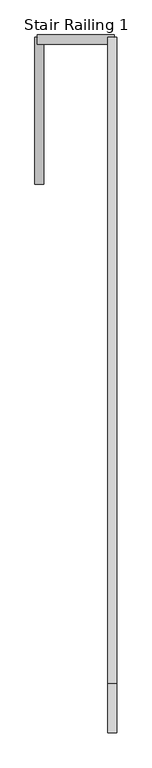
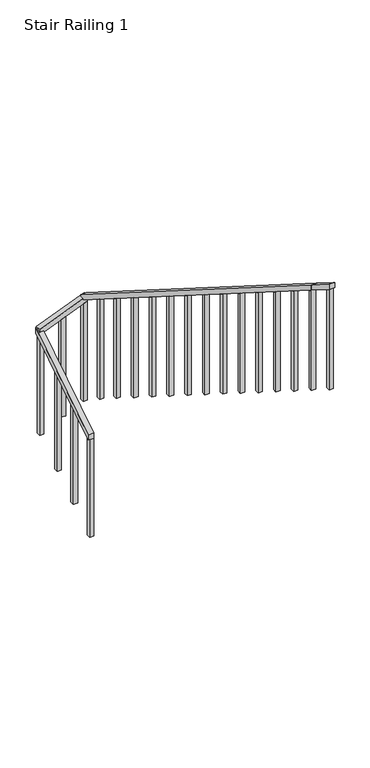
"""IFC4 building model written with IfcOpenShell, lengths in millimetres: railing geometry, Stair Railing 1."""

import ifcopenshell
import ifcopenshell.guid

model = None  # the IFC model being written
_history = None  # IfcOwnerHistory: only IFC2X3 demands one
_inside = {}  # id of a spatial element -> (the spatial element, [elements in it])
_under = {}  # id of a project, library or spatial element -> (it, [spatial elements below it])
_declared = {}  # id of a project -> (the project, [libraries it declares])
_typed = {}  # id of a type object -> (the type object, [elements of that type])
_made_of = {}  # id of a material, layer set ... -> (it, [elements and type objects made of it])


def new_model(schema):
    """Start an empty IFC model of exactly this schema.

    Asked for "IFC4X3", IfcOpenShell would pick the latest addendum, in which some entities
    have other attributes; the version numbers below select the first issue.
    IFC2X3 requires an IfcOwnerHistory on every rooted entity: one is made here for all.
    """
    global model, _history
    if schema == "IFC4X3":
        model = ifcopenshell.file(schema_version=(4, 3, 0, 0))
    else:
        model = ifcopenshell.file(schema=schema)
    _inside.clear()
    _under.clear()
    _declared.clear()
    _typed.clear()
    _made_of.clear()
    _history = None
    if model.schema == "IFC2X3":
        org = make("IfcOrganization", Name="unknown")
        user = make(
            "IfcPersonAndOrganization",
            ThePerson=make("IfcPerson", FamilyName="unknown"),
            TheOrganization=org,
        )
        app = make(
            "IfcApplication",
            ApplicationDeveloper=org,
            Version="unknown",
            ApplicationFullName="unknown",
            ApplicationIdentifier="unknown",
        )
        _history = make(
            "IfcOwnerHistory",
            OwningUser=user,
            OwningApplication=app,
            ChangeAction="ADDED",
            CreationDate=0,
        )
    return model


def make(cls, **values):
    """One entity of the class cls with the attributes given. An attribute that is None is left unset."""
    return model.create_entity(
        cls, **{name: value for name, value in values.items() if value is not None}
    )


def rooted(cls, **values):
    """An entity with a GlobalId (a new one), such as an element, a storey or a relation."""
    return make(cls, GlobalId=ifcopenshell.guid.new(), OwnerHistory=_history, **values)


def si_unit(unit_type, name, prefix=None):
    """IfcSIUnit, for example si_unit("LENGTHUNIT", "METRE", prefix="MILLI")."""
    return make("IfcSIUnit", UnitType=unit_type, Prefix=prefix, Name=name)


def assignment(units):
    """IfcUnitAssignment: the units of a project."""
    return None if units is None else make("IfcUnitAssignment", Units=units)


def point(xyz):
    """IfcCartesianPoint."""
    return None if xyz is None else make("IfcCartesianPoint", Coordinates=xyz)


def direction(xyz):
    """IfcDirection."""
    return None if xyz is None else make("IfcDirection", DirectionRatios=xyz)


def frame(location, z_axis=None, x_axis=None):
    """IfcAxis2Placement3D, a coordinate frame: its origin and axes. An axis left out is left unset."""
    return make(
        "IfcAxis2Placement3D",
        Location=point(location),
        Axis=direction(z_axis),
        RefDirection=direction(x_axis),
    )


def origin():
    """The frame at (0, 0, 0) with its axes left unset."""
    return frame((0.0, 0.0, 0.0))


def place(relative_to, where):
    """IfcLocalPlacement: puts the frame where relative to a parent placement (None: the world)."""
    return make(
        "IfcLocalPlacement", PlacementRelTo=relative_to, RelativePlacement=where
    )


def context(
    kind, dimensions, precision=None, world=None, true_north=None, identifier=None
):
    """IfcGeometricRepresentationContext, for example the 3D "Model" context."""
    return make(
        "IfcGeometricRepresentationContext",
        ContextIdentifier=identifier,
        ContextType=kind,
        CoordinateSpaceDimension=dimensions,
        Precision=precision,
        WorldCoordinateSystem=world,
        TrueNorth=true_north,
    )


def project(units=None, contexts=None):
    """IfcProject with its units and contexts."""
    return rooted(
        "IfcProject",
        Name="project",
        RepresentationContexts=contexts,
        UnitsInContext=assignment(units),
    )


def spatial(cls, under=None, at=None, **own):
    """A site, building, storey or space (cls), placed at a placement, below another one or the project."""
    s = rooted(cls, ObjectPlacement=at, **own)
    if under is not None:
        _under.setdefault(under.id(), (under, []))[1].append(s)
    return s


def polyline(points):
    """IfcPolyline through the points."""
    return make("IfcPolyline", Points=[point(p) for p in points])


def outline(outer, holes=None, kind="AREA"):
    """IfcArbitraryClosedProfileDef: a profile drawn as a closed curve; with holes, ...WithVoids."""
    if holes is None:
        return make("IfcArbitraryClosedProfileDef", ProfileType=kind, OuterCurve=outer)
    return make(
        "IfcArbitraryProfileDefWithVoids",
        ProfileType=kind,
        OuterCurve=outer,
        InnerCurves=holes,
    )


def extrude(swept, where, along, depth):
    """IfcExtrudedAreaSolid: the profile swept, set in the frame where, extruded along a direction by depth."""
    return make(
        "IfcExtrudedAreaSolid",
        SweptArea=swept,
        Position=where,
        ExtrudedDirection=direction(along),
        Depth=depth,
    )


def shape(context_of_items, identifier, shape_type, items):
    """IfcShapeRepresentation: the items that make up one representation, for example the "Body"."""
    return make(
        "IfcShapeRepresentation",
        ContextOfItems=context_of_items,
        RepresentationIdentifier=identifier,
        RepresentationType=shape_type,
        Items=items,
    )


def source(mapping_origin, context_of_items, identifier, shape_type, items):
    """IfcRepresentationMap: a shape defined once, which mapped items show again and again."""
    return make(
        "IfcRepresentationMap",
        MappingOrigin=mapping_origin,
        MappedRepresentation=shape(context_of_items, identifier, shape_type, items),
    )


def transform(
    local_origin,
    x_axis=None,
    y_axis=None,
    z_axis=None,
    scale=None,
    scale2=None,
    scale3=None,
    uniform=True,
):
    """IfcCartesianTransformationOperator3D, or its non-uniform kind. x_axis, y_axis, z_axis: its Axis1, 2, 3."""
    if uniform:
        return make(
            "IfcCartesianTransformationOperator3D",
            Axis1=direction(x_axis),
            Axis2=direction(y_axis),
            LocalOrigin=point(local_origin),
            Scale=scale,
            Axis3=direction(z_axis),
        )
    return make(
        "IfcCartesianTransformationOperator3DnonUniform",
        Axis1=direction(x_axis),
        Axis2=direction(y_axis),
        LocalOrigin=point(local_origin),
        Scale=scale,
        Axis3=direction(z_axis),
        Scale2=scale2,
        Scale3=scale3,
    )


def mapped(mapping_source, mapping_target):
    """IfcMappedItem: shows the shape of a source again, moved by a transform."""
    return make(
        "IfcMappedItem", MappingSource=mapping_source, MappingTarget=mapping_target
    )


def made_of(thing, what):
    """Note that an element or type object is made of a material, layer set ...; save() writes the relation."""
    if what is not None:
        _made_of.setdefault(what.id(), (what, []))[1].append(thing)
    return thing


def element(
    cls,
    number,
    at=None,
    inside=None,
    cuts=None,
    type_object=None,
    material=None,
    context=None,
    identifier="Body",
    shape_type=None,
    held_by="IfcProductDefinitionShape",
    body=None,
    shapes=None,
    **own,
):
    """One element of the class cls, such as IfcWall. Its Tag is "e" and its number.

    at: its placement. inside: the storey or other place that contains it. cuts: it is an
    opening in that element (IfcRelVoidsElement). A single representation is given by context,
    identifier, shape_type and body (its items); several are given by shapes. held_by: the class
    of the entity that holds the representations. save() writes the other relations.
    """
    e = rooted(cls, Tag="e%d" % number, ObjectPlacement=at, **own)
    if body is not None:
        shapes = [shape(context, identifier, shape_type, body)]
    if shapes is not None:
        e.Representation = make(held_by, Representations=shapes)
    if inside is not None:
        _inside.setdefault(inside.id(), (inside, []))[1].append(e)
    if cuts is not None:
        rooted(
            "IfcRelVoidsElement", RelatingBuildingElement=cuts, RelatedOpeningElement=e
        )
    if type_object is not None:
        _typed.setdefault(type_object.id(), (type_object, []))[1].append(e)
    return made_of(e, material)


def aggregate(whole, parts):
    """IfcRelAggregates: a whole, such as a stair, and the parts it consists of."""
    return rooted("IfcRelAggregates", RelatingObject=whole, RelatedObjects=parts)


def save(model, path):
    """Write the relations noted so far, then the file.

    IfcRelAggregates (storeys below a building ...), IfcRelContainedInSpatialStructure (elements
    in a storey), IfcRelDefinesByType, IfcRelAssociatesMaterial and IfcRelDeclares: one each for
    every whole, place, type object, material and project.
    """
    for whole, parts in _under.values():
        aggregate(whole, parts)
    for where, things in _inside.values():
        rooted(
            "IfcRelContainedInSpatialStructure",
            RelatedElements=things,
            RelatingStructure=where,
        )
    for kind, things in _typed.values():
        rooted("IfcRelDefinesByType", RelatedObjects=things, RelatingType=kind)
    for what, things in _made_of.values():
        rooted("IfcRelAssociatesMaterial", RelatedObjects=things, RelatingMaterial=what)
    for by, libraries in _declared.values():
        rooted("IfcRelDeclares", RelatingContext=by, RelatedDefinitions=libraries)
    model.write(path)


def stair_railing_1_292d214a(model_context):
    return source(origin(), model_context, "Body", "SweptSolid", [
        extrude(outline(polyline([(55823.086508, 1696.4526316), (55823.086508, 1645.6526316), (54998.086508, 1116.2631579), (54998.086508, 1167.0631579), (55823.086508, 1696.4526316)])), frame((2053.1388725, 0.0, 0.0), z_axis=(1.0, 0.0, 0.0), x_axis=(0.0, 1.0, 0.0)), (0.0, 0.0, 1.0), 50.8),
        extrude(outline(polyline([(55036.186508, 1140.7113263), (55036.186508, 176.4631579), (54998.086508, 176.4631579), (54998.086508, 1116.2631579), (55036.186508, 1140.7113263)])), frame((2065.8388725, 0.0, 0.0), z_axis=(1.0, 0.0, 0.0), x_axis=(0.0, 1.0, 0.0)), (0.0, 0.0, 1.0), 38.1),
        extrude(outline(polyline([(55289.936508, 1303.5386947), (55289.936508, 339.2905263), (55251.836508, 339.2905263), (55251.836508, 1279.0905263), (55289.936508, 1303.5386947)])), frame((2065.8388725, 0.0, 0.0), z_axis=(1.0, 0.0, 0.0), x_axis=(0.0, 1.0, 0.0)), (0.0, 0.0, 1.0), 38.1),
        extrude(outline(polyline([(55543.686508, 1466.3660632), (55543.686508, 502.1178947), (55505.586508, 502.1178947), (55505.586508, 1441.9178947), (55543.686508, 1466.3660632)])), frame((2065.8388725, 0.0, 0.0), z_axis=(1.0, 0.0, 0.0), x_axis=(0.0, 1.0, 0.0)), (0.0, 0.0, 1.0), 38.1),
        extrude(outline(polyline([(55823.086508, 1645.6526316), (55823.086508, 681.4044632), (55784.986508, 681.4044632), (55784.986508, 1621.2044632), (55823.086508, 1645.6526316)])), frame((2065.8388725, 0.0, 0.0), z_axis=(1.0, 0.0, 0.0), x_axis=(0.0, 1.0, 0.0)), (0.0, 0.0, 1.0), 38.1),
        extrude(outline(polyline([(1822.1157895, 2499.6480231), (1872.9157895, 2499.6480231), (1696.4526316, 2065.8388725), (1645.6526316, 2065.8388725), (1822.1157895, 2499.6480231)])), frame((0.0, 55784.986508, 0.0), z_axis=(0.0, 1.0, 0.0), x_axis=(0.0, 0.0, 1.0)), (0.0, 0.0, 1.0), 50.8),
        extrude(outline(polyline([(1726.1351274, 2263.6934478), (786.3351274, 2263.6934478), (786.3351274, 2301.7934478), (1741.6332936, 2301.7934478), (1726.1351274, 2263.6934478)])), frame((0.0, 55784.986508, 0.0), z_axis=(0.0, 1.0, 0.0), x_axis=(0.0, 0.0, 1.0)), (0.0, 0.0, 1.0), 38.1),
        extrude(outline(polyline([(1806.6176233, 2461.5480231), (866.8176233, 2461.5480231), (866.8176233, 2499.6480231), (1822.1157895, 2499.6480231), (1806.6176233, 2461.5480231)])), frame((0.0, 55784.986508, 0.0), z_axis=(0.0, 1.0, 0.0), x_axis=(0.0, 0.0, 1.0)), (0.0, 0.0, 1.0), 38.1),
        extrude(outline(polyline([(52190.886508, 4116.1368421), (52190.886508, 4166.9368421), (55823.086508, 1872.9157895), (55823.086508, 1822.1157895), (52190.886508, 4116.1368421)])), frame((2461.5480231, 0.0, 0.0), z_axis=(1.0, 0.0, 0.0), x_axis=(0.0, 1.0, 0.0)), (0.0, 0.0, 1.0), 50.8),
        extrude(outline(polyline([(55562.736508, 1986.5473684), (55562.736508, 1046.7473684), (55524.636508, 1046.7473684), (55524.636508, 2010.6105263), (55562.736508, 1986.5473684)])), frame((2461.5480231, 0.0, 0.0), z_axis=(1.0, 0.0, 0.0), x_axis=(0.0, 1.0, 0.0)), (0.0, 0.0, 1.0), 38.1),
        extrude(outline(polyline([(55302.386508, 2150.9789474), (55302.386508, 1211.1789474), (55264.286508, 1211.1789474), (55264.286508, 2175.0421053), (55302.386508, 2150.9789474)])), frame((2461.5480231, 0.0, 0.0), z_axis=(1.0, 0.0, 0.0), x_axis=(0.0, 1.0, 0.0)), (0.0, 0.0, 1.0), 38.1),
        extrude(outline(polyline([(55022.986508, 2327.4421053), (55022.986508, 1387.6421053), (54984.886508, 1387.6421053), (54984.886508, 2351.5052632), (55022.986508, 2327.4421053)])), frame((2461.5480231, 0.0, 0.0), z_axis=(1.0, 0.0, 0.0), x_axis=(0.0, 1.0, 0.0)), (0.0, 0.0, 1.0), 38.1),
        extrude(outline(polyline([(54743.586508, 2503.9052632), (54743.586508, 1564.1052632), (54705.486508, 1564.1052632), (54705.486508, 2527.9684211), (54743.586508, 2503.9052632)])), frame((2461.5480231, 0.0, 0.0), z_axis=(1.0, 0.0, 0.0), x_axis=(0.0, 1.0, 0.0)), (0.0, 0.0, 1.0), 38.1),
        extrude(outline(polyline([(54464.186508, 2680.3684211), (54464.186508, 1740.5684211), (54426.086508, 1740.5684211), (54426.086508, 2704.4315789), (54464.186508, 2680.3684211)])), frame((2461.5480231, 0.0, 0.0), z_axis=(1.0, 0.0, 0.0), x_axis=(0.0, 1.0, 0.0)), (0.0, 0.0, 1.0), 38.1),
        extrude(outline(polyline([(54184.786508, 2856.8315789), (54184.786508, 1917.0315789), (54146.686508, 1917.0315789), (54146.686508, 2880.8947368), (54184.786508, 2856.8315789)])), frame((2461.5480231, 0.0, 0.0), z_axis=(1.0, 0.0, 0.0), x_axis=(0.0, 1.0, 0.0)), (0.0, 0.0, 1.0), 38.1),
        extrude(outline(polyline([(53905.386508, 3033.2947368), (53905.386508, 2093.4947368), (53867.286508, 2093.4947368), (53867.286508, 3057.3578947), (53905.386508, 3033.2947368)])), frame((2461.5480231, 0.0, 0.0), z_axis=(1.0, 0.0, 0.0), x_axis=(0.0, 1.0, 0.0)), (0.0, 0.0, 1.0), 38.1),
        extrude(outline(polyline([(53625.986508, 3209.7578947), (53625.986508, 2269.9578947), (53587.886508, 2269.9578947), (53587.886508, 3233.8210526), (53625.986508, 3209.7578947)])), frame((2461.5480231, 0.0, 0.0), z_axis=(1.0, 0.0, 0.0), x_axis=(0.0, 1.0, 0.0)), (0.0, 0.0, 1.0), 38.1),
        extrude(outline(polyline([(53346.586508, 3386.2210526), (53346.586508, 2446.4210526), (53308.486508, 2446.4210526), (53308.486508, 3410.2842105), (53346.586508, 3386.2210526)])), frame((2461.5480231, 0.0, 0.0), z_axis=(1.0, 0.0, 0.0), x_axis=(0.0, 1.0, 0.0)), (0.0, 0.0, 1.0), 38.1),
        extrude(outline(polyline([(53067.186508, 3562.6842105), (53067.186508, 2622.8842105), (53029.086508, 2622.8842105), (53029.086508, 3586.7473684), (53067.186508, 3562.6842105)])), frame((2461.5480231, 0.0, 0.0), z_axis=(1.0, 0.0, 0.0), x_axis=(0.0, 1.0, 0.0)), (0.0, 0.0, 1.0), 38.1),
        extrude(outline(polyline([(52787.786508, 3739.1473684), (52787.786508, 2799.3473684), (52749.686508, 2799.3473684), (52749.686508, 3763.2105263), (52787.786508, 3739.1473684)])), frame((2461.5480231, 0.0, 0.0), z_axis=(1.0, 0.0, 0.0), x_axis=(0.0, 1.0, 0.0)), (0.0, 0.0, 1.0), 38.1),
        extrude(outline(polyline([(52508.386508, 3915.6105263), (52508.386508, 2975.8105263), (52470.286508, 2975.8105263), (52470.286508, 3939.6736842), (52508.386508, 3915.6105263)])), frame((2461.5480231, 0.0, 0.0), z_axis=(1.0, 0.0, 0.0), x_axis=(0.0, 1.0, 0.0)), (0.0, 0.0, 1.0), 38.1),
        extrude(outline(polyline([(52228.986508, 4092.0736842), (52228.986508, 3152.2736842), (52190.886508, 3152.2736842), (52190.886508, 4116.1368421), (52228.986508, 4092.0736842)])), frame((2461.5480231, 0.0, 0.0), z_axis=(1.0, 0.0, 0.0), x_axis=(0.0, 1.0, 0.0)), (0.0, 0.0, 1.0), 38.1),
        extrude(outline(polyline([(51911.486508, 4292.6), (51911.486508, 4343.4), (52190.886508, 4166.9368421), (52190.886508, 4116.1368421), (51911.486508, 4292.6)])), frame((2461.5480231, 0.0, 0.0), z_axis=(1.0, 0.0, 0.0), x_axis=(0.0, 1.0, 0.0)), (0.0, 0.0, 1.0), 50.8),
        extrude(outline(polyline([(51949.586508, 4268.5368421), (51949.586508, 3328.7368421), (51911.486508, 3328.7368421), (51911.486508, 4292.6), (51949.586508, 4268.5368421)])), frame((2461.5480231, 0.0, 0.0), z_axis=(1.0, 0.0, 0.0), x_axis=(0.0, 1.0, 0.0)), (0.0, 0.0, 1.0), 38.1),
    ])


if __name__ == "__main__":
    model = new_model("IFC4")
    model_context = context("Model", 3, world=origin())
    ifc_project = project(units=[si_unit("LENGTHUNIT", "METRE", prefix="MILLI")], contexts=[model_context])
    site = spatial("IfcSite", under=ifc_project)
    building = spatial("IfcBuilding", under=site)
    placement = place(None, origin())
    stair_railing_1_shape = stair_railing_1_292d214a(model_context)
    element("IfcRailing", 1, ObjectType="Stair Railing 1", at=placement, inside=building, context=model_context, shape_type="MappedRepresentation", body=[
        mapped(stair_railing_1_shape, transform((0.0, 0.0, 0.0), x_axis=(1.0, 0.0, 0.0), y_axis=(0.0, 1.0, 0.0), z_axis=(0.0, 0.0, 1.0))),
    ])
    save(model, "model.ifc")
